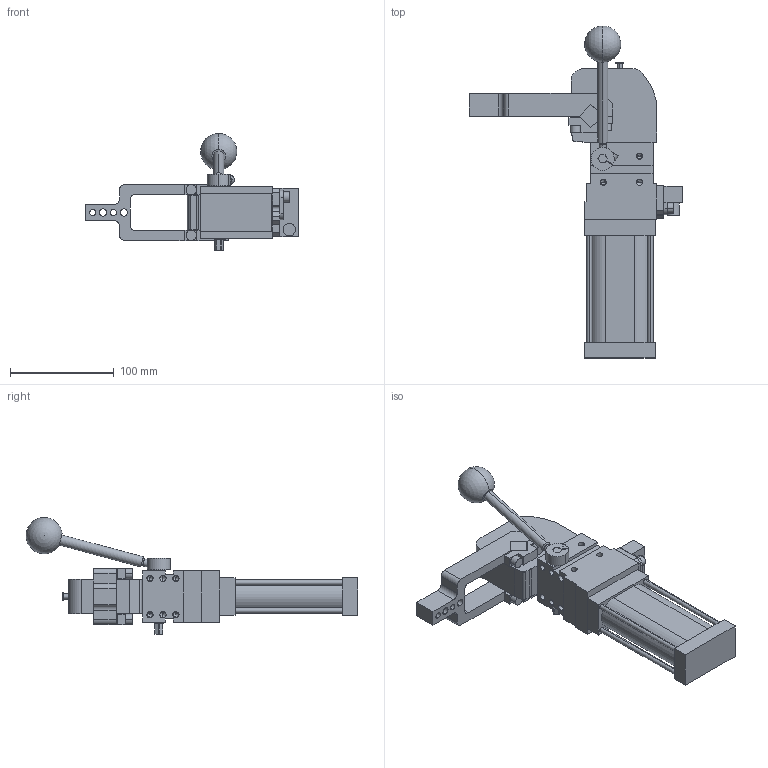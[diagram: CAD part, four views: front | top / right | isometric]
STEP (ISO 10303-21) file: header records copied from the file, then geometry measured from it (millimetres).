
FILE_DESCRIPTION (( 'STEP AP214' ), '1' );
FILE_NAME ('cplm40lav2ci1g_108.STEP', '2021-05-25T12:24:09', ( '' ), ( '' ), 'SwSTEP 2.0', 'SolidWorks 2021', '' );
FILE_SCHEMA (( 'AUTOMOTIVE_DESIGN' ));
Length unit declared in the file: millimetre
Products named in the file (6): comando_manuale_cplm_40; cplm40lav2ci1g_108; piastra_blocchetto_cpl40; meccanica_cplm40; leva_v2c_cpl40; blocchetto_VEP_0_cpl40
Assembly tree (5 placements, depth 2):
  cplm40lav2ci1g_108
    meccanica_cplm40
    blocchetto_VEP_0_cpl40
    piastra_blocchetto_cpl40
    leva_v2c_cpl40
    comando_manuale_cplm_40
Bounding box: 205.5 x 319.99 x 112.66 mm (x, y, z)
Volume: 798457.2 mm3; surface area: 124552.8 mm2
Topology: 6 solids, 6 shells, 458 faces, 1174 edges, 739 vertices
Faces by surface type: plane 255, cylinder 155, cone 46, sphere 2
Entity records: 15210 total; most frequent: CARTESIAN_POINT 2447, DIRECTION 2421, ORIENTED_EDGE 2254, EDGE_CURVE 1127, AXIS2_PLACEMENT_3D 832, LINE 757, VECTOR 757, VERTEX_POINT 736
